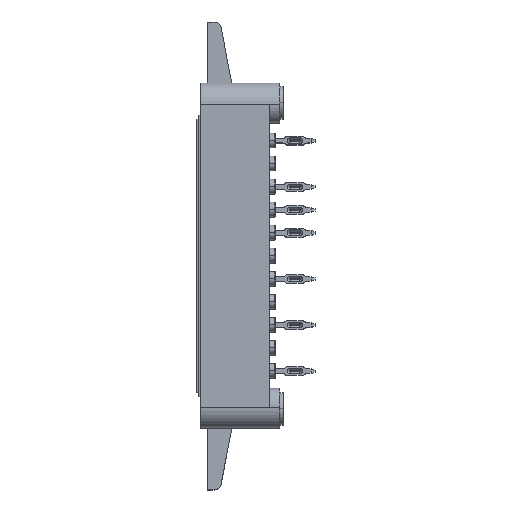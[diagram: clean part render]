
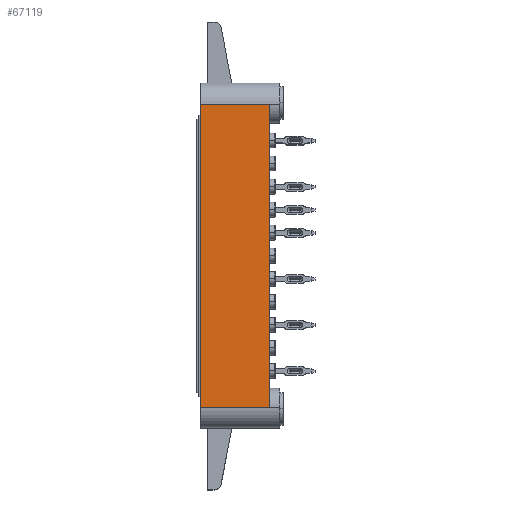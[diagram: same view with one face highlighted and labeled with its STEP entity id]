
A CAD part, top view. The second image highlights one B-rep face of the part: STEP entity #67119.
In plain terms, the highlighted planar face has unit normal (0, 0, 1) as drawn and (0, 0, -1) by its records, which use the part's own axes.
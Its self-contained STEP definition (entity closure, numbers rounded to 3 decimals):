
#590 = EDGE_LOOP ( 'NONE', ( #61374, #37754, #14101, #2365 ) ) ;
#2365 = ORIENTED_EDGE ( 'NONE', *, *, #39550, .F. ) ;
#9114 = VECTOR ( 'NONE', #31366, 1000. ) ;
#9983 = LINE ( 'NONE', #46720, #23610 ) ;
#10188 = CARTESIAN_POINT ( 'NONE',  ( 26.491, -21.05, -17. ) ) ;
#12511 = CARTESIAN_POINT ( 'NONE',  ( 0., 0., -17. ) ) ;
#14101 = ORIENTED_EDGE ( 'NONE', *, *, #36498, .F. ) ;
#15908 = VECTOR ( 'NONE', #50506, 1000. ) ;
#20734 = DIRECTION ( 'NONE',  ( -1., 0., 0. ) ) ;
#21091 = FACE_OUTER_BOUND ( 'NONE', #590, .T. ) ;
#23610 = VECTOR ( 'NONE', #47063, 1000. ) ;
#24025 = VERTEX_POINT ( 'NONE', #38079 ) ;
#26301 = CARTESIAN_POINT ( 'NONE',  ( 0., -21.25, -17. ) ) ;
#27858 = VERTEX_POINT ( 'NONE', #63690 ) ;
#31366 = DIRECTION ( 'NONE',  ( 1., 0., 0. ) ) ;
#32552 = AXIS2_PLACEMENT_3D ( 'NONE', #26301, #41202, #20734 ) ;
#34735 = CARTESIAN_POINT ( 'NONE',  ( 0., -21.05, -17. ) ) ;
#35230 = EDGE_CURVE ( 'NONE', #41363, #24025, #57731, .T. ) ;
#36498 = EDGE_CURVE ( 'NONE', #27858, #45525, #50849, .T. ) ;
#37754 = ORIENTED_EDGE ( 'NONE', *, *, #63944, .T. ) ;
#38079 = CARTESIAN_POINT ( 'NONE',  ( 9.6, -21.05, -17. ) ) ;
#39550 = EDGE_CURVE ( 'NONE', #24025, #27858, #9983, .T. ) ;
#39889 = LINE ( 'NONE', #12511, #67447 ) ;
#41202 = DIRECTION ( 'NONE',  ( 0., 0., -1. ) ) ;
#41363 = VERTEX_POINT ( 'NONE', #34735 ) ;
#41526 = PLANE ( 'NONE',  #32552 ) ;
#45525 = VERTEX_POINT ( 'NONE', #59276 ) ;
#46720 = CARTESIAN_POINT ( 'NONE',  ( 9.6, 0., -17. ) ) ;
#47063 = DIRECTION ( 'NONE',  ( 0., 1., 0. ) ) ;
#49908 = DIRECTION ( 'NONE',  ( 0., 1., 0. ) ) ;
#50506 = DIRECTION ( 'NONE',  ( -1., 0., 0. ) ) ;
#50849 = LINE ( 'NONE', #61225, #15908 ) ;
#57731 = LINE ( 'NONE', #10188, #9114 ) ;
#59276 = CARTESIAN_POINT ( 'NONE',  ( 0., 21.05, -17. ) ) ;
#61225 = CARTESIAN_POINT ( 'NONE',  ( 26.491, 21.05, -17. ) ) ;
#61374 = ORIENTED_EDGE ( 'NONE', *, *, #35230, .F. ) ;
#63690 = CARTESIAN_POINT ( 'NONE',  ( 9.6, 21.05, -17. ) ) ;
#63944 = EDGE_CURVE ( 'NONE', #41363, #45525, #39889, .T. ) ;
#67119 = ADVANCED_FACE ( 'NONE', ( #21091 ), #41526, .T. ) ;
#67447 = VECTOR ( 'NONE', #49908, 1000. ) ;
